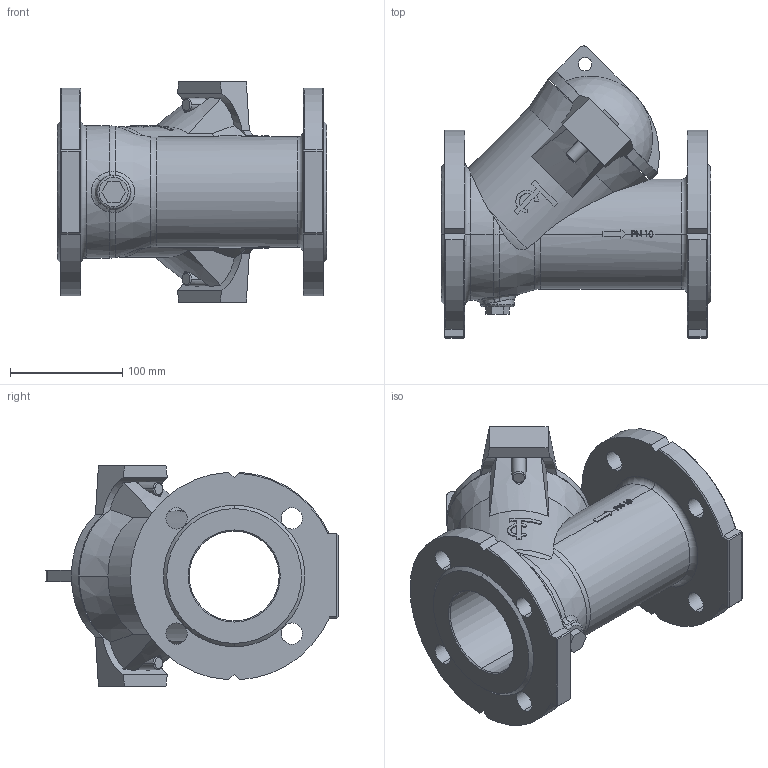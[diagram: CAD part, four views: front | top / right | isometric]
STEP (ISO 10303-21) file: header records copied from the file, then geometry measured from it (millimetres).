
FILE_DESCRIPTION (( 'STEP AP203' ), '1' );
FILE_NAME ('CBL DN65.STEP', '2010-05-05T06:50:08', ( 'farex' ), ( '' ), 'SwSTEP 2.0', 'SolidWorks 2009', '' );
FILE_SCHEMA (( 'CONFIG_CONTROL_DESIGN' ));
Length unit declared in the file: millimetre
Products named in the file (1): CBL DN65
Bounding box: 240 x 260.12 x 196 mm (x, y, z)
Volume: 2718196.5 mm3; surface area: 296265 mm2
Topology: 1 solids, 1 shells, 387 faces, 1047 edges, 674 vertices
Faces by surface type: plane 176, bspline 90, cylinder 82, cone 25, torus 12, sphere 2
Entity records: 26322 total; most frequent: CARTESIAN_POINT 17317, ORIENTED_EDGE 2094, DIRECTION 1505, EDGE_CURVE 1047, VERTEX_POINT 674, AXIS2_PLACEMENT_3D 544, EDGE_LOOP 425, VECTOR 417
